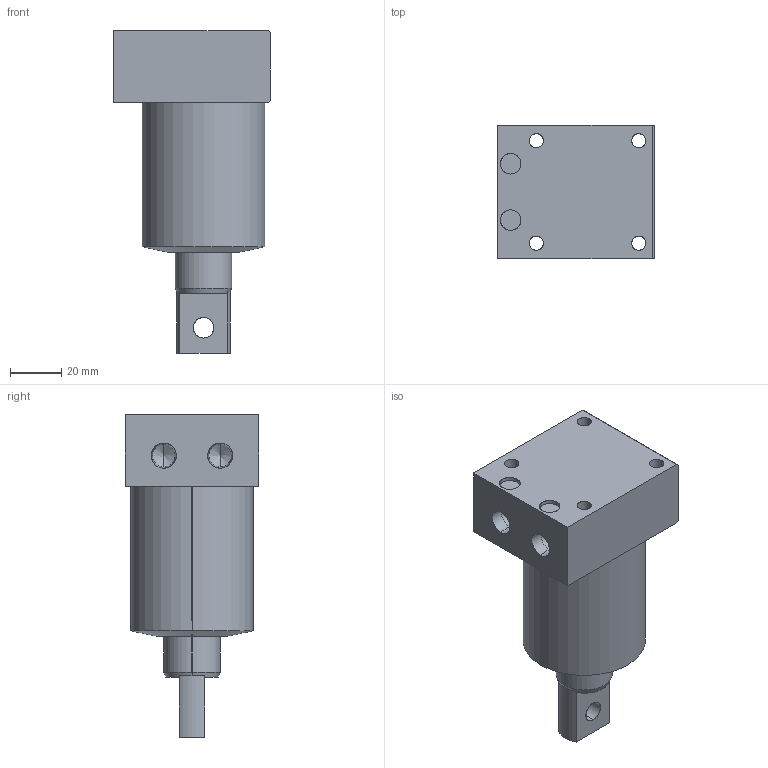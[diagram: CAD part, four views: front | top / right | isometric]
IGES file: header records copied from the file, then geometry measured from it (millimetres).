
Start section: SolidWorks IGES file using analytic representation for surfaces
Global section: file name: E:\ALL SSVT IGS MODEL\ALL-SWING-IGS\48-SWING\SWING-48-BM-PTYPE-LH-RH\SB03-RP-PTYPE-BM.IGS; native system: SolidWorks 2019; preprocessor: SolidWorks 2019; author: SSVT; date: 210822.122436; units: millimetre
Bounding box: 61 x 52 x 126 mm (x, y, z)
Surface area: 36338 mm2 (no closed solid volume)
Topology: 0 solids, 0 shells, 57 faces, 1001 edges, 997 vertices
Faces by surface type: revolution 39, bspline 18
